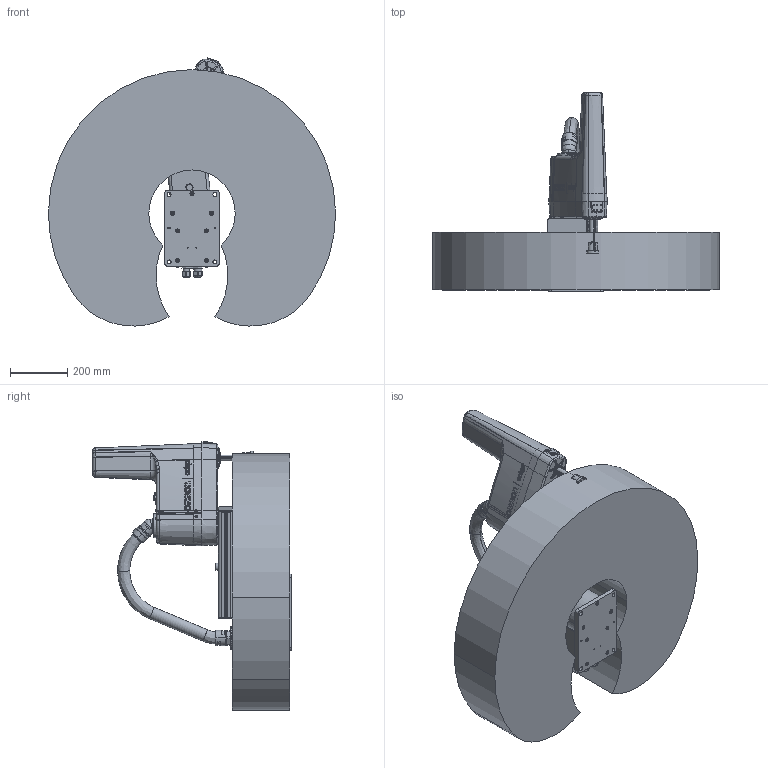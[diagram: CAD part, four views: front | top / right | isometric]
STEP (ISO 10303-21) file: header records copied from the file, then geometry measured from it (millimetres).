
FILE_DESCRIPTION (( 'STEP AP214' ), '1' );
FILE_NAME ('Cobra 500.STEP', '2017-11-27T18:34:30', ( '' ), ( '' ), 'SwSTEP 2.0', 'SolidWorks 2017', '' );
FILE_SCHEMA (( 'AUTOMOTIVE_DESIGN' ));
Length unit declared in the file: millimetre
Products named in the file (7): Cobra Series Quill; Cobra Series Outer Link; Cobra 500 Inner Link; Cobra Series Base; Cobra 500; Cobra 500 Flyover; Cobra 500 Work Envelope
Assembly tree (6 placements, depth 2):
  Cobra 500
    Cobra Series Base
    Cobra 500 Inner Link
    Cobra Series Outer Link
    Cobra Series Quill
    Cobra 500 Work Envelope
    Cobra 500 Flyover
Bounding box: 1000 x 691.5 x 934.05 mm (x, y, z)
Volume: 135655702.6 mm3; surface area: 3360300 mm2
Topology: 12 solids, 30 shells, 2502 faces, 6382 edges, 4034 vertices
Faces by surface type: plane 907, cylinder 738, bspline 407, cone 309, torus 123, sphere 18
Entity records: 163837 total; most frequent: CARTESIAN_POINT 90582, ORIENTED_EDGE 12470, DIRECTION 10821, EDGE_CURVE 6235, AXIS2_PLACEMENT_3D 4188, VERTEX_POINT 3988, EDGE_LOOP 2789, ADVANCED_FACE 2502
